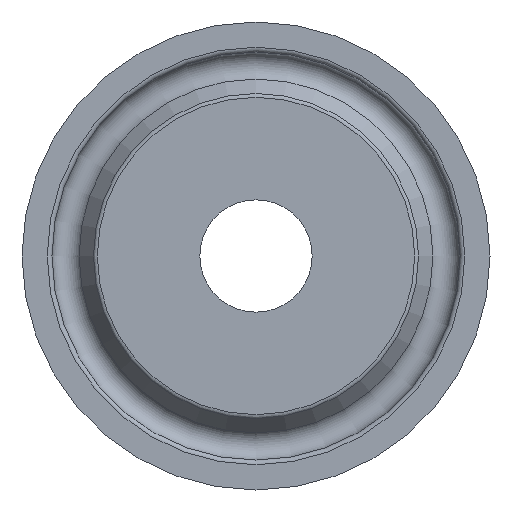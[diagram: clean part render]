
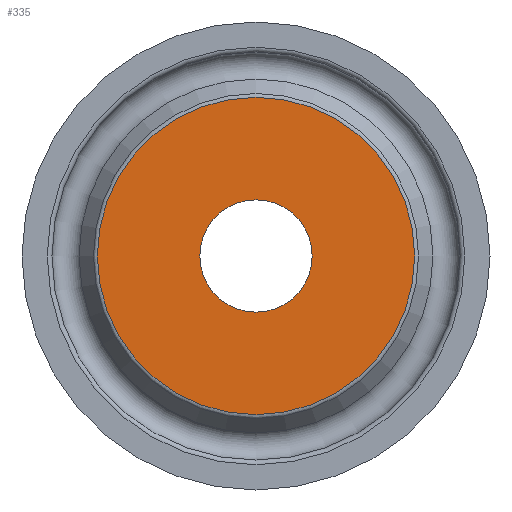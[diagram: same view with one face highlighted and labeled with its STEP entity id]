
A CAD part, front view. The second image highlights one B-rep face of the part: STEP entity #335.
In plain terms, the highlighted planar face has unit normal (0, -1, 0).
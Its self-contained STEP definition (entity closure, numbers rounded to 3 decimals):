
#301=CARTESIAN_POINT('',(8.475,0.8,0.0));
#302=VERTEX_POINT('',#301);
#303=CARTESIAN_POINT('',(0.0,0.8,0.0));
#304=DIRECTION('',(0.0,-1.0,0.0));
#305=DIRECTION('',(1.0,0.0,0.0));
#306=AXIS2_PLACEMENT_3D('',#303,#304,#305);
#307=CIRCLE('',#306,8.475);
#308=EDGE_CURVE('',#302,#302,#307,.T.);
#316=CARTESIAN_POINT('',(5.738,0.8,0.0));
#317=DIRECTION('',(0.0,-1.0,0.0));
#318=DIRECTION('',(0.0,0.0,-1.0));
#319=AXIS2_PLACEMENT_3D('',#316,#317,#318);
#320=PLANE('',#319);
#321=ORIENTED_EDGE('',*,*,#308,.T.);
#322=EDGE_LOOP('',(#321));
#323=FACE_OUTER_BOUND('',#322,.T.);
#324=CARTESIAN_POINT('',(3.,0.8,0.0));
#325=VERTEX_POINT('',#324);
#326=CARTESIAN_POINT('',(0.0,0.8,0.0));
#327=DIRECTION('',(0.0,-1.0,0.0));
#328=DIRECTION('',(1.0,0.0,0.0));
#329=AXIS2_PLACEMENT_3D('',#326,#327,#328);
#330=CIRCLE('',#329,3.);
#331=EDGE_CURVE('',#325,#325,#330,.T.);
#332=ORIENTED_EDGE('',*,*,#331,.F.);
#333=EDGE_LOOP('',(#332));
#334=FACE_BOUND('',#333,.T.);
#335=ADVANCED_FACE('',(#323,#334),#320,.T.);
